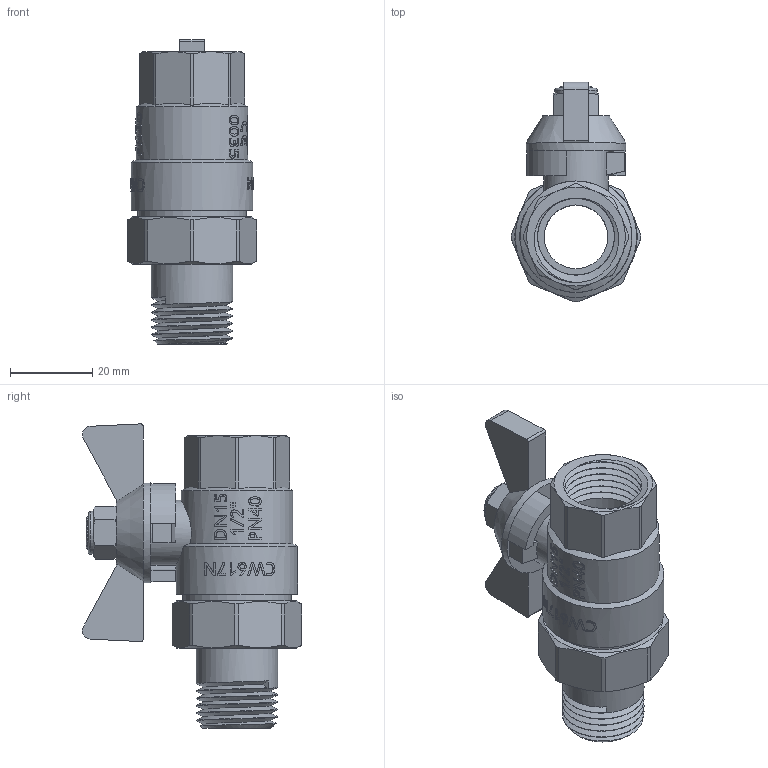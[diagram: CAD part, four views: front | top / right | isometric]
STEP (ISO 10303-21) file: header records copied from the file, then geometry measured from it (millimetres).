
FILE_DESCRIPTION(/* description */ (''),/* implementation_level */ '2;1');
FILE_NAME(/* name */ 'H:\Мишенин_3D\Исходные файлы 3D\VT.227.N.04.stp',/* time_stamp */ '2018-01-15T13:27:31+03:00',/* author */ ('MisheninAL'),/* organization */ (''),/* preprocessor_version */ 'ST-DEVELOPER v16.13',/* originating_system */ 'Autodesk Inventor 2018',/* authorisation */ '');
FILE_SCHEMA (('AUTOMOTIVE_DESIGN { 1 0 10303 214 3 1 1 }'));
Length unit declared in the file: millimetre
Products named in the file (1): VT.215_ ВН_1%2
Bounding box: 31.54 x 53.36 x 74.02 mm (x, y, z)
Volume: 28482.6 mm3; surface area: 15552.1 mm2
Topology: 1 solids, 1 shells, 517 faces, 1389 edges, 921 vertices
Faces by surface type: plane 214, bspline 192, cylinder 87, cone 16, torus 8
Full cylindrical faces by diameter (mm): 8 x1, 10.392 x1, 15.5 x1, 15.729 x1, 18.7 x6, 19.844 x4, 24.322 x1, 26.365 x1, 27.132 x1, 29.532 x1
Entity records: 25182 total; most frequent: CARTESIAN_POINT 13726, ORIENTED_EDGE 2670, DIRECTION 1833, EDGE_CURVE 1335, VERTEX_POINT 893, LINE 617, VECTOR 617, AXIS2_PLACEMENT_3D 608
